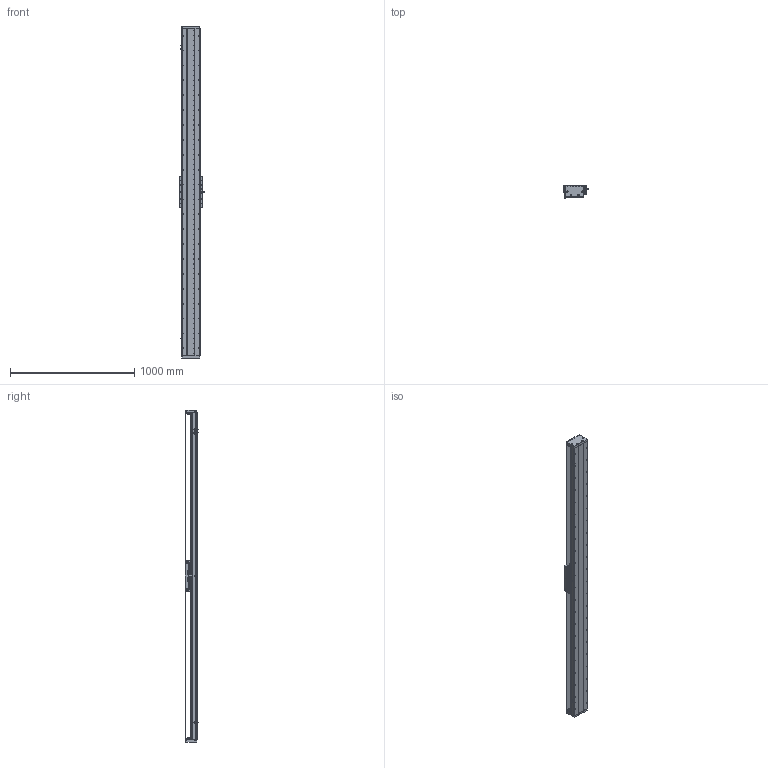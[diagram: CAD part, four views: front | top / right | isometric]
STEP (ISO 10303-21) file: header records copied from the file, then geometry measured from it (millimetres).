
FILE_DESCRIPTION (( 'STEP AP203' ), '1' );
FILE_NAME ('DA-C145-C3-T2340-C010-0.2 眻盄萇儂.STEP', '2025-08-14T01:32:51', ( '' ), ( '' ), 'SwSTEP 2.0', 'SolidWorks 2019', '' );
FILE_SCHEMA (( 'CONFIG_CONTROL_DESIGN' ));
Length unit declared in the file: millimetre
Products named in the file (32): TAY01-M8; 复件 DA95-DB-00  挡板^CU145-W 滚珠滑台; 葩璃 CKM03-W060-C1C2-TP-0.2^DA-C145-C3-T-C010-0.2; 复件 DA145-C3-YB-B-00 压板B^CU145-W 滚珠滑台; 复件 DA145-DG 钢带端盖^复件 CU145 钢带组件_DA-C145-C3-T-C010-0.2; 葩璃 DA145-C3-DP-A-00 菜えA^CU145-W 幗紩賑怢; 复件 DA145 钢带^复件 CU145 钢带组件_DA-C145-C3-T-C010-0.2; 葩璃 DMA-010-0.2 黍杅芛^DA-C145-C3-T-C010-0.2; 复件 DA146 钢带拉块^复件 CU145 钢带组件_DA-C145-C3-T-C010-0.2; 复件 DA95-HK-GT-00 滑块钢轨^CU145-W-00 一体化滑动台板; 葩璃 DA95-GT-T-00^IU-CU145-L 菁釱絳寢; IU-CU145-L 菁釱絳寢; CU145-W-00 珨极趙賑雄怢啣; 复件 半圆头内六角螺钉 M3×6^CU145-W 滚珠滑台; 复件 DA95-MFP-01 密封片^CU145-W 滚珠滑台; 葩璃 PM-T45^DA-C145-C3-T-C010-0.2; 复件 DA145-GYP-00 光电感应片^DA-C145-C3-T-C010-0.2; 葩璃 CKMA01-W060-TRL^DA-C145-C3-T-C010-0.2; 复件 内六角平端紧定螺钉 GB.T77-2000 M5×10^CU145-W 滚珠滑台; 葩璃 CU145 詩湍郪璃^DA-C145-C3-T-C010-0.2; 复件 DA145-C3-YB-A-00 压板A^CU145-W 滚珠滑台; IU-CU145-L-00 菁釱(L2640); 葩璃 鞠褒情蹟譫 M3^DA-C145-C3-T-C010-0.2; CU145-W 幗紩賑怢; 葩璃 DA145-C3-DP-B-00 菜えB^CU145-W 幗紩賑怢; 复件 DA146 钢带垫块^复件 CU145 钢带组件_DA-C145-C3-T-C010-0.2; DA-C145-C3-T2340-C010-0.2 眻盄萇儂; 葩璃 DA95-HXJ-00 遣喳砎蝶^DA-C145-C3-T-C010-0.2; 复件 DA145-C3-DK-00 挡块^CU145-W 滚珠滑台; 葩璃 XD-U-02L 棠掑喜^DA-C145-C3-T-C010-0.2; 66245-CU145-HT-W-00 賑雄怢啣(3D芞祧)(00); 复件 纯铜油杯 6x6mm^CU145-W 滚珠滑台
Assembly tree (103 placements, depth 4):
  DA-C145-C3-T2340-C010-0.2 眻盄萇儂
    IU-CU145-L 菁釱絳寢
      IU-CU145-L-00 菁釱(L2640)
      葩璃 DA95-GT-T-00^IU-CU145-L 菁釱絳寢  x4
    葩璃 CU145 詩湍郪璃^DA-C145-C3-T-C010-0.2
      复件 DA145-DG 钢带端盖^复件 CU145 钢带组件_DA-C145-C3-T-C010-0.2  x2
      复件 DA146 钢带拉块^复件 CU145 钢带组件_DA-C145-C3-T-C010-0.2  x2
      复件 DA146 钢带垫块^复件 CU145 钢带组件_DA-C145-C3-T-C010-0.2  x2
      复件 DA145 钢带^复件 CU145 钢带组件_DA-C145-C3-T-C010-0.2
    CU145-W 幗紩賑怢
      CU145-W-00 珨极趙賑雄怢啣
        66245-CU145-HT-W-00 賑雄怢啣(3D芞祧)(00)
        复件 DA95-HK-GT-00 滑块钢轨^CU145-W-00 一体化滑动台板  x8
      复件 DA95-MFP-01 密封片^CU145-W 滚珠滑台  x8
      复件 DA95-DB-00  挡板^CU145-W 滚珠滑台  x8
      复件 内六角平端紧定螺钉 GB.T77-2000 M5×10^CU145-W 滚珠滑台  x4
      复件 纯铜油杯 6x6mm^CU145-W 滚珠滑台  x4
      复件 半圆头内六角螺钉 M3×6^CU145-W 滚珠滑台  x16
      复件 DA145-C3-DK-00 挡块^CU145-W 滚珠滑台  x4
      葩璃 DA145-C3-DP-B-00 菜えB^CU145-W 幗紩賑怢  x2
      复件 DA145-C3-YB-B-00 压板B^CU145-W 滚珠滑台  x2
      葩璃 DA145-C3-DP-A-00 菜えA^CU145-W 幗紩賑怢  x3
      复件 DA145-C3-YB-A-00 压板A^CU145-W 滚珠滑台  x3
      TAY01-M8  x4
    葩璃 CKMA01-W060-TRL^DA-C145-C3-T-C010-0.2
    葩璃 PM-T45^DA-C145-C3-T-C010-0.2  x3
    葩璃 XD-U-02L 棠掑喜^DA-C145-C3-T-C010-0.2
    葩璃 DA95-HXJ-00 遣喳砎蝶^DA-C145-C3-T-C010-0.2  x4
    复件 DA145-GYP-00 光电感应片^DA-C145-C3-T-C010-0.2
    葩璃 DMA-010-0.2 黍杅芛^DA-C145-C3-T-C010-0.2
    葩璃 CKM03-W060-C1C2-TP-0.2^DA-C145-C3-T-C010-0.2
    葩璃 鞠褒情蹟譫 M3^DA-C145-C3-T-C010-0.2  x8
Bounding box: 203.5 x 108.45 x 2676 mm (x, y, z)
Volume: 12587692.1 mm3; surface area: 4200347.2 mm2
Topology: 99 solids, 131 shells, 4669 faces, 13340 edges, 8358 vertices
Faces by surface type: cylinder 2305, plane 1596, cone 690, torus 74, sphere 4
Entity records: 128762 total; most frequent: CARTESIAN_POINT 38382, ORIENTED_EDGE 18200, DIRECTION 17331, EDGE_CURVE 9100, AXIS2_PLACEMENT_3D 6514, VERTEX_POINT 5897, VECTOR 4303, LINE 4303
